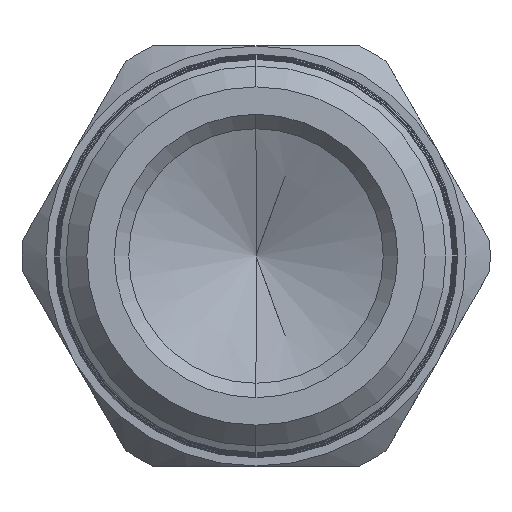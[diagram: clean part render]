
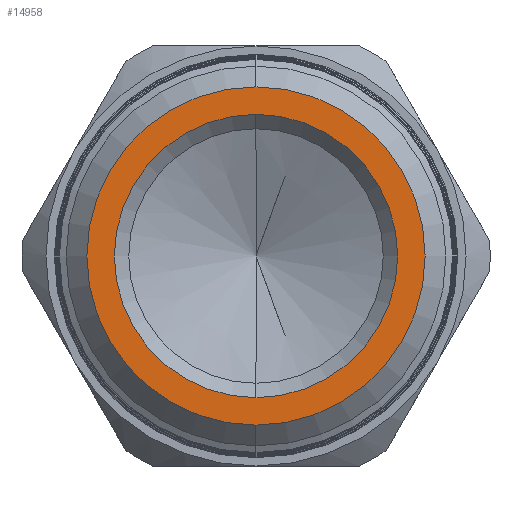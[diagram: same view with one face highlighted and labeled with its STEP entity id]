
A CAD part, left-side view. The second image highlights one B-rep face of the part: STEP entity #14958.
In plain terms, the highlighted planar face has unit normal (-1, 0, 0).
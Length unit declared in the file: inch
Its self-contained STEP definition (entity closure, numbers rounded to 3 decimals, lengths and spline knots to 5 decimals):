
#548 = DIRECTION ( 'NONE',  ( 1., 0., 0. ) ) ;
#991 = DIRECTION ( 'NONE',  ( 0., 0., -1. ) ) ;
#1573 = AXIS2_PLACEMENT_3D ( 'NONE', #16107, #548, #12172 ) ;
#2245 = CARTESIAN_POINT ( 'NONE',  ( 0., 0., 0. ) ) ;
#2668 = ORIENTED_EDGE ( 'NONE', *, *, #12415, .T. ) ;
#2885 = CIRCLE ( 'NONE', #4239, 0.35226 ) ;
#3587 = CARTESIAN_POINT ( 'NONE',  ( 0., 0., -0.295 ) ) ;
#3716 = CARTESIAN_POINT ( 'NONE',  ( 0., 0., 0. ) ) ;
#3831 = EDGE_CURVE ( 'NONE', #15542, #11084, #15648, .T. ) ;
#4239 = AXIS2_PLACEMENT_3D ( 'NONE', #7552, #12655, #12481 ) ;
#4961 = DIRECTION ( 'NONE',  ( 0., 0., 1. ) ) ;
#6467 = DIRECTION ( 'NONE',  ( -1., 0., 0. ) ) ;
#7277 = CARTESIAN_POINT ( 'NONE',  ( 0., 0., 0. ) ) ;
#7328 = EDGE_LOOP ( 'NONE', ( #10398, #10176 ) ) ;
#7501 = EDGE_LOOP ( 'NONE', ( #2668, #13113 ) ) ;
#7552 = CARTESIAN_POINT ( 'NONE',  ( 0., 0., 0. ) ) ;
#7962 = CIRCLE ( 'NONE', #11969, 0.295 ) ;
#8390 = CARTESIAN_POINT ( 'NONE',  ( 0., 0., 0.35226 ) ) ;
#8448 = DIRECTION ( 'NONE',  ( 1., 0., 0. ) ) ;
#9854 = AXIS2_PLACEMENT_3D ( 'NONE', #3716, #6467, #4961 ) ;
#10035 = DIRECTION ( 'NONE',  ( 0., 0., -1. ) ) ;
#10176 = ORIENTED_EDGE ( 'NONE', *, *, #11073, .T. ) ;
#10398 = ORIENTED_EDGE ( 'NONE', *, *, #3831, .T. ) ;
#10837 = PLANE ( 'NONE',  #1573 ) ;
#11073 = EDGE_CURVE ( 'NONE', #11084, #15542, #7962, .T. ) ;
#11084 = VERTEX_POINT ( 'NONE', #3587 ) ;
#11911 = AXIS2_PLACEMENT_3D ( 'NONE', #7277, #13652, #10035 ) ;
#11969 = AXIS2_PLACEMENT_3D ( 'NONE', #2245, #8448, #991 ) ;
#12019 = FACE_BOUND ( 'NONE', #7328, .T. ) ;
#12149 = CARTESIAN_POINT ( 'NONE',  ( 0., 0., -0.35226 ) ) ;
#12172 = DIRECTION ( 'NONE',  ( 0., 0., -1. ) ) ;
#12415 = EDGE_CURVE ( 'NONE', #12571, #16049, #14934, .T. ) ;
#12481 = DIRECTION ( 'NONE',  ( 0., 0., 1. ) ) ;
#12571 = VERTEX_POINT ( 'NONE', #12149 ) ;
#12655 = DIRECTION ( 'NONE',  ( -1., 0., 0. ) ) ;
#13070 = CARTESIAN_POINT ( 'NONE',  ( 0., 0., 0.295 ) ) ;
#13113 = ORIENTED_EDGE ( 'NONE', *, *, #16123, .T. ) ;
#13276 = FACE_OUTER_BOUND ( 'NONE', #7501, .T. ) ;
#13652 = DIRECTION ( 'NONE',  ( 1., 0., 0. ) ) ;
#14934 = CIRCLE ( 'NONE', #9854, 0.35226 ) ;
#14958 = ADVANCED_FACE ( 'NONE', ( #12019, #13276 ), #10837, .F. ) ;
#15542 = VERTEX_POINT ( 'NONE', #13070 ) ;
#15648 = CIRCLE ( 'NONE', #11911, 0.295 ) ;
#16049 = VERTEX_POINT ( 'NONE', #8390 ) ;
#16107 = CARTESIAN_POINT ( 'NONE',  ( 0., 0., 0. ) ) ;
#16123 = EDGE_CURVE ( 'NONE', #16049, #12571, #2885, .T. ) ;
